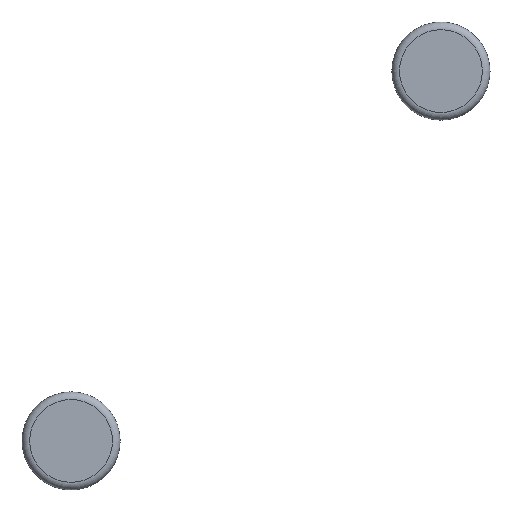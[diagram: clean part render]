
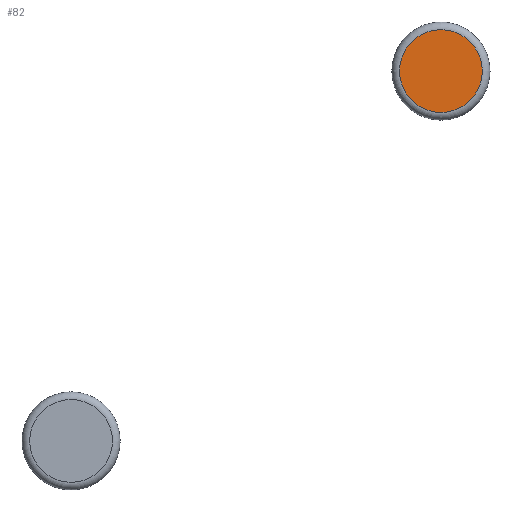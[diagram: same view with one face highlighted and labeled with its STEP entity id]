
A CAD part, front view. The second image highlights one B-rep face of the part: STEP entity #82.
In plain terms, the highlighted planar face has unit normal (0, -1, 0).
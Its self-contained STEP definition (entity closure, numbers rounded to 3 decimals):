
#28=FACE_OUTER_BOUND('',#38,.T.);
#38=EDGE_LOOP('',(#68));
#47=CIRCLE('',#95,2.843);
#53=VERTEX_POINT('',#142);
#59=EDGE_CURVE('',#53,#53,#47,.T.);
#68=ORIENTED_EDGE('',*,*,#59,.T.);
#76=PLANE('',#96);
#82=ADVANCED_FACE('',(#28),#76,.T.);
#95=AXIS2_PLACEMENT_3D('',#143,#116,#117);
#96=AXIS2_PLACEMENT_3D('',#144,#118,#119);
#116=DIRECTION('center_axis',(0.,-1.,0.));
#117=DIRECTION('ref_axis',(-1.,0.,0.));
#118=DIRECTION('center_axis',(0.,-1.,0.));
#119=DIRECTION('ref_axis',(0.,0.,1.));
#142=CARTESIAN_POINT('',(-1.6,0.797,81.41));
#143=CARTESIAN_POINT('Origin',(-1.6,0.797,78.567));
#144=CARTESIAN_POINT('Origin',(-1.6,0.797,78.567));
